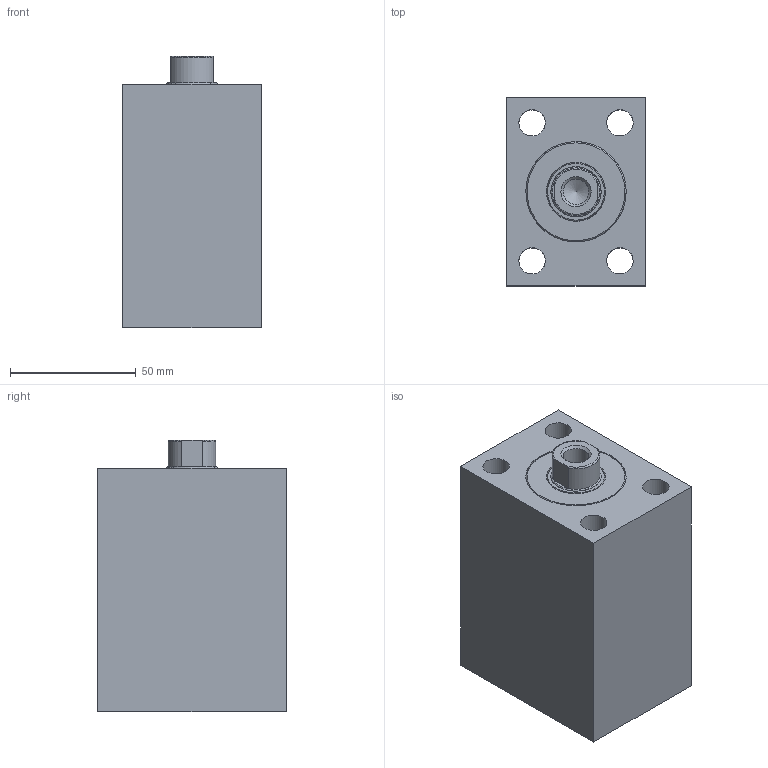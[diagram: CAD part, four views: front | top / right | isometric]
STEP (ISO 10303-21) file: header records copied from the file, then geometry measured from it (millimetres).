
FILE_DESCRIPTION( ( 'STEP AP203' ), '1' );
FILE_NAME( 'C:/Users/SAYKO.ltd/Desktop/SBZ100/02/SBZ100-32/SBZ100.32__FORM_02_STROKE_25__H2_58_POS_0_.stp', ' ', ( ' ' ), ( ' ' ), 'PSStep 15.0.47', 'PARTsolutions', ' ' );
FILE_SCHEMA( ( 'CONFIG_CONTROL_DESIGN' ) );
Length unit declared in the file: millimetre
Products named in the file (5): SBZ100.32  FORM=02 STROKE=25 (H2=58 POS=0); HI_SBZ10032  FORM=02 STROKE=25 H2=58 -C; HI_SBZ10032  FORM=02 STROKE=25-R; HI_SBZ100.32-C; HI_SBZ100.32-S
Assembly tree (4 placements, depth 2):
  SBZ100.32  FORM=02 STROKE=25 (H2=58 POS=0)
    HI_SBZ10032  FORM=02 STROKE=25 H2=58 -C
    HI_SBZ10032  FORM=02 STROKE=25-R
    HI_SBZ100.32-C
    HI_SBZ100.32-S
Bounding box: 55 x 75 x 108 mm (x, y, z)
Volume: 344434.8 mm3; surface area: 75643.8 mm2
Topology: 4 solids, 4 shells, 66 faces, 130 edges, 85 vertices
Faces by surface type: plane 31, cylinder 28, cone 4, torus 3
Full cylindrical faces by diameter (mm): 3 x2, 10.106 x1, 10.5 x4, 11.445 x2, 16 x2, 18 x4, 20 x4, 23.5 x1, 28 x2, 32 x2, 40 x2
Entity records: 3599 total; most frequent: CARTESIAN_POINT 2369, ORIENTED_EDGE 176, DIRECTION 158, EDGE_LOOP 128, FACE_OUTER_BOUND 93, EDGE_CURVE 88, VERTEX_POINT 77, B_SPLINE_CURVE_WITH_KNOTS 72
